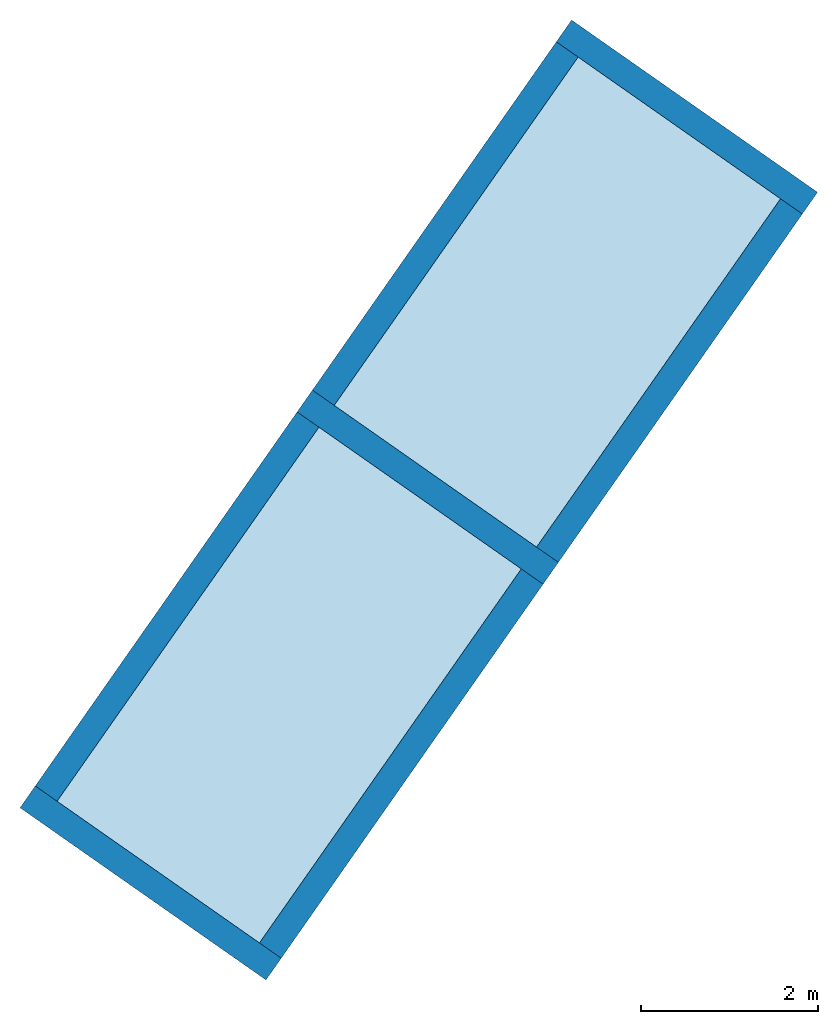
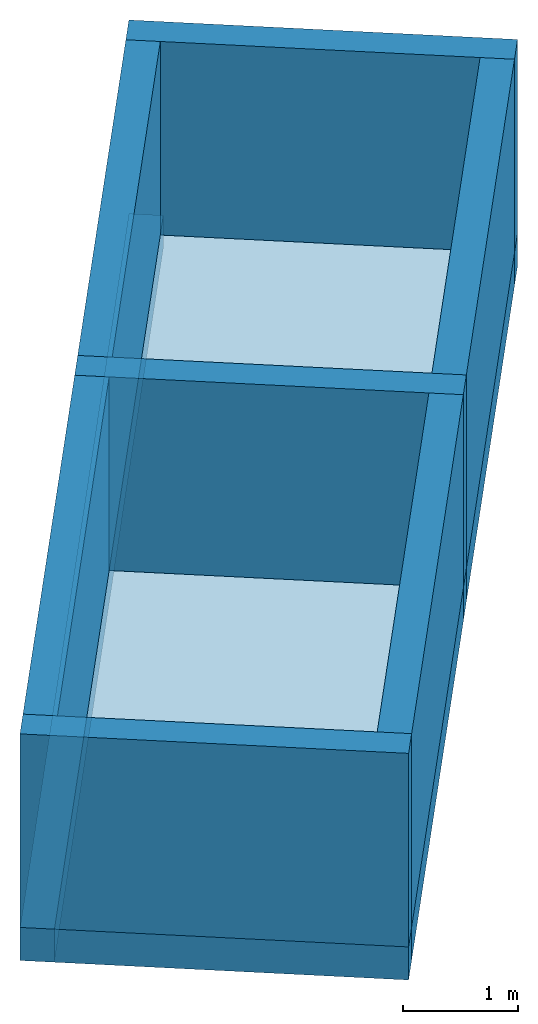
# One storey: 5 beams, 5 walls, 2 slabs.
"""IFC2X3 building model written with IfcOpenShell, lengths in metres."""

from ifc_helpers import new_model, entity, si_unit, converted_unit, derived_unit, direction, frame, frame_2d, origin, origin_2d_with_axis, place, context, subcontext, project, spatial, rectangle, extrude, material, type_object, element, save


model = new_model("IFC2X3")

# Units and contexts
model_context = context("Model", 3, precision=1e-05, world=origin(), true_north=direction((6.123031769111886e-17, 1.0)))
body_context = subcontext(model_context, "Body", "Model", "MODEL_VIEW")
ifc_project = project(units=[si_unit("LENGTHUNIT", "METRE"), si_unit("AREAUNIT", "SQUARE_METRE"), si_unit("VOLUMEUNIT", "CUBIC_METRE"), converted_unit("PLANEANGLEUNIT", "DEGREE", entity("IfcPlaneAngleMeasure", 0.017453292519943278), si_unit("PLANEANGLEUNIT", "RADIAN"), dimensions=[0, 0, 0, 0, 0, 0, 0]), si_unit("MASSUNIT", "GRAM", prefix="KILO"), derived_unit("MASSDENSITYUNIT", [(si_unit("MASSUNIT", "GRAM", prefix="KILO"), 1), (si_unit("LENGTHUNIT", "METRE"), -3)]), derived_unit("IONCONCENTRATIONUNIT", [(si_unit("MASSUNIT", "GRAM", prefix="KILO"), 1), (si_unit("LENGTHUNIT", "METRE"), -3)]), derived_unit("MOMENTOFINERTIAUNIT", [(si_unit("LENGTHUNIT", "METRE"), 4)]), si_unit("TIMEUNIT", "SECOND"), si_unit("FREQUENCYUNIT", "HERTZ"), si_unit("THERMODYNAMICTEMPERATUREUNIT", "DEGREE_CELSIUS"), derived_unit("THERMALTRANSMITTANCEUNIT", [(si_unit("MASSUNIT", "GRAM", prefix="KILO"), 1), (si_unit("THERMODYNAMICTEMPERATUREUNIT", "KELVIN"), -1), (si_unit("TIMEUNIT", "SECOND"), -3)]), derived_unit("THERMALCONDUCTANCEUNIT", [(si_unit("MASSUNIT", "GRAM", prefix="KILO"), 1), (si_unit("THERMODYNAMICTEMPERATUREUNIT", "KELVIN"), -1), (si_unit("TIMEUNIT", "SECOND"), -3), (si_unit("LENGTHUNIT", "METRE"), 1)]), derived_unit("VOLUMETRICFLOWRATEUNIT", [(si_unit("LENGTHUNIT", "METRE", prefix="DECI"), 3), (si_unit("TIMEUNIT", "SECOND"), -1)]), derived_unit("MASSFLOWRATEUNIT", [(si_unit("MASSUNIT", "GRAM", prefix="KILO"), 1), (si_unit("TIMEUNIT", "SECOND"), -1)]), derived_unit("ROTATIONALFREQUENCYUNIT", [(si_unit("TIMEUNIT", "SECOND"), -1)]), si_unit("ELECTRICCURRENTUNIT", "AMPERE"), si_unit("ELECTRICVOLTAGEUNIT", "VOLT"), si_unit("POWERUNIT", "WATT"), si_unit("FORCEUNIT", "NEWTON", prefix="KILO"), si_unit("ILLUMINANCEUNIT", "LUX"), si_unit("LUMINOUSFLUXUNIT", "LUMEN"), si_unit("LUMINOUSINTENSITYUNIT", "CANDELA"), si_unit("ENERGYUNIT", "JOULE"), derived_unit("USERDEFINED", [(si_unit("MASSUNIT", "GRAM", prefix="KILO"), -1), (si_unit("LENGTHUNIT", "METRE"), -2), (si_unit("TIMEUNIT", "SECOND"), 3), (si_unit("LUMINOUSFLUXUNIT", "LUMEN"), 1)]), derived_unit("USERDEFINED", [(si_unit("MASSUNIT", "GRAM", prefix="KILO"), 1), (si_unit("TIMEUNIT", "SECOND"), -3), (si_unit("LENGTHUNIT", "METRE"), 3), (si_unit("ELECTRICCURRENTUNIT", "AMPERE"), -2)]), derived_unit("SOUNDPOWERUNIT", [(si_unit("MASSUNIT", "GRAM", prefix="KILO"), 1), (si_unit("TIMEUNIT", "SECOND"), -3), (si_unit("LENGTHUNIT", "METRE"), 2)]), derived_unit("SOUNDPRESSUREUNIT", [(si_unit("MASSUNIT", "GRAM", prefix="KILO"), 1), (si_unit("LENGTHUNIT", "METRE"), -1), (si_unit("TIMEUNIT", "SECOND"), -2)]), derived_unit("LINEARVELOCITYUNIT", [(si_unit("LENGTHUNIT", "METRE"), 1), (si_unit("TIMEUNIT", "SECOND"), -1)]), si_unit("PRESSUREUNIT", "PASCAL"), derived_unit("USERDEFINED", [(si_unit("MASSUNIT", "GRAM", prefix="KILO"), 1), (si_unit("LENGTHUNIT", "METRE"), -2), (si_unit("TIMEUNIT", "SECOND"), -2)]), derived_unit("LINEARFORCEUNIT", [(si_unit("MASSUNIT", "GRAM", prefix="KILO"), 1), (si_unit("TIMEUNIT", "SECOND"), -2)]), derived_unit("PLANARFORCEUNIT", [(si_unit("MASSUNIT", "GRAM", prefix="KILO"), 1), (si_unit("LENGTHUNIT", "METRE"), -1), (si_unit("TIMEUNIT", "SECOND"), -2)]), derived_unit("SPECIFICHEATCAPACITYUNIT", [(si_unit("THERMODYNAMICTEMPERATUREUNIT", "KELVIN"), -1), (si_unit("LENGTHUNIT", "METRE"), 2), (si_unit("TIMEUNIT", "SECOND"), -2)]), derived_unit("HEATFLUXDENSITYUNIT", [(si_unit("MASSUNIT", "GRAM", prefix="KILO"), 1), (si_unit("TIMEUNIT", "SECOND"), -3)]), derived_unit("HEATINGVALUEUNIT", [(si_unit("LENGTHUNIT", "METRE"), 2), (si_unit("TIMEUNIT", "SECOND"), -2)]), derived_unit("VAPORPERMEABILITYUNIT", [(si_unit("LENGTHUNIT", "METRE"), -1), (si_unit("TIMEUNIT", "SECOND"), 1)]), derived_unit("DYNAMICVISCOSITYUNIT", [(si_unit("MASSUNIT", "GRAM", prefix="KILO"), 1), (si_unit("TIMEUNIT", "SECOND"), -1), (si_unit("LENGTHUNIT", "METRE"), -1)]), derived_unit("THERMALEXPANSIONCOEFFICIENTUNIT", [(si_unit("THERMODYNAMICTEMPERATUREUNIT", "KELVIN"), -1)]), derived_unit("MODULUSOFELASTICITYUNIT", [(si_unit("MASSUNIT", "GRAM", prefix="KILO"), 1), (si_unit("LENGTHUNIT", "METRE"), -1), (si_unit("TIMEUNIT", "SECOND"), -2)]), derived_unit("ISOTHERMALMOISTURECAPACITYUNIT", [(si_unit("MASSUNIT", "GRAM", prefix="KILO"), -1), (si_unit("LENGTHUNIT", "METRE"), 3)]), derived_unit("MOISTUREDIFFUSIVITYUNIT", [(si_unit("TIMEUNIT", "SECOND"), -1), (si_unit("LENGTHUNIT", "METRE"), 2)]), derived_unit("MASSPERLENGTHUNIT", [(si_unit("MASSUNIT", "GRAM", prefix="KILO"), 1), (si_unit("LENGTHUNIT", "METRE"), -1)]), derived_unit("THERMALRESISTANCEUNIT", [(si_unit("MASSUNIT", "GRAM", prefix="KILO"), -1), (si_unit("TIMEUNIT", "SECOND"), 3), (si_unit("THERMODYNAMICTEMPERATUREUNIT", "KELVIN"), 1)]), derived_unit("ACCELERATIONUNIT", [(si_unit("LENGTHUNIT", "METRE"), 1), (si_unit("TIMEUNIT", "SECOND"), -2)]), derived_unit("ANGULARVELOCITYUNIT", [(si_unit("TIMEUNIT", "SECOND"), -1), (si_unit("PLANEANGLEUNIT", "RADIAN"), 1)]), derived_unit("LINEARSTIFFNESSUNIT", [(si_unit("MASSUNIT", "GRAM", prefix="KILO"), 1), (si_unit("TIMEUNIT", "SECOND"), -2)]), derived_unit("WARPINGCONSTANTUNIT", [(si_unit("LENGTHUNIT", "METRE"), 6)]), derived_unit("LINEARMOMENTUNIT", [(si_unit("MASSUNIT", "GRAM", prefix="KILO"), 1), (si_unit("LENGTHUNIT", "METRE"), 1), (si_unit("TIMEUNIT", "SECOND"), -2)]), derived_unit("TORQUEUNIT", [(si_unit("MASSUNIT", "GRAM", prefix="KILO"), 1), (si_unit("LENGTHUNIT", "METRE"), 2), (si_unit("TIMEUNIT", "SECOND"), -2)])], contexts=[model_context])

# Site, building, storey
site_placement = place(None, origin())
site = spatial("IfcSite", under=ifc_project, at=site_placement, Name="Default", CompositionType="ELEMENT")
building_placement = place(site_placement, origin())
building = spatial("IfcBuilding", under=site, at=building_placement, CompositionType="ELEMENT")
storey_placement = place(building_placement, frame((0.0, 0.0, 93.64)))
storey = spatial("IfcBuildingStorey", under=building, at=storey_placement, Name="Depósito", CompositionType="ELEMENT", Elevation=93.64)

# Beams
ifc_material_1 = material(Name="Hormigón armado")
beam_1_placement = place(storey_placement, origin())
element("IfcBeam", 1, at=beam_1_placement, inside=storey, material=ifc_material_1, Name="Viga 1 (30x35)", ObjectType="FOOTING_BEAM", context=body_context, shape_type="SweptSolid", body=[
    extrude(rectangle(XDim=0.34999999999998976, YDim=0.3000000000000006, at=frame_2d((0.0, 1.3461454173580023e-15), x_axis=(1.0, 0.0))), frame((4.350410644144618, 11.05287951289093, -0.17499999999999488), z_axis=(0.819152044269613, -0.573576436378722, 0.0), x_axis=(0.0, 0.0, 1.0)), (0.0, 0.0, 1.0), 3.3844485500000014),
])
beam_2_placement = place(storey_placement, origin())
element("IfcBeam", 2, at=beam_2_placement, inside=storey, material=ifc_material_1, Name="Viga 2 (30x35)", ObjectType="FOOTING_BEAM", context=body_context, shape_type="SweptSolid", body=[
    extrude(rectangle(XDim=0.34999999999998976, YDim=0.30000000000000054, at=origin_2d_with_axis()), frame((-1.6577922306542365, 2.21075953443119, -0.17499999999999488), z_axis=(0.573576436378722, 0.819152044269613, 0.0), x_axis=(0.0, 0.0, 1.0)), (0.0, 0.0, 1.0), 10.83920425),
])
beam_3_placement = place(storey_placement, origin())
element("IfcBeam", 3, at=beam_3_placement, inside=storey, material=ifc_material_1, Name="Viga 3 (30x35)", ObjectType="FOOTING_BEAM", context=body_context, shape_type="SweptSolid", body=[
    extrude(rectangle(XDim=0.34999999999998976, YDim=0.2999999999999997, at=frame_2d((0.0, 1.942890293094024e-16), x_axis=(1.0, 0.0))), frame((-1.6946285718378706, 2.4196688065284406, -0.17499999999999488), z_axis=(0.8191520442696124, -0.5735764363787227, 0.0), x_axis=(0.0, 0.0, 1.0)), (0.0, 0.0, 1.0), 3.384448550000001),
])
beam_4_placement = place(storey_placement, origin())
element("IfcBeam", 4, at=beam_4_placement, inside=storey, material=ifc_material_1, Name="Viga 4 (30x35)", ObjectType="FOOTING_BEAM", context=body_context, shape_type="SweptSolid", body=[
    extrude(rectangle(XDim=0.34999999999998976, YDim=0.30000000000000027, at=frame_2d((0.0, -9.71445146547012e-17), x_axis=(1.0, 0.0))), frame((0.8688401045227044, 0.44159252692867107, -0.17499999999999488), z_axis=(0.5735764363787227, 0.8191520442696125, 0.0), x_axis=(0.0, 0.0, 1.0)), (0.0, 0.0, 1.0), 10.839204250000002),
])
beam_5_placement = place(storey_placement, origin())
element("IfcBeam", 5, at=beam_5_placement, inside=storey, material=ifc_material_1, Name="Viga 5 (30x35)", ObjectType="FOOTING_BEAM", context=body_context, shape_type="SweptSolid", body=[
    extrude(rectangle(XDim=0.34999999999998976, YDim=0.2999999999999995, at=frame_2d((0.0, 5.134781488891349e-16), x_axis=(1.0, 0.0))), frame((1.4291860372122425, 6.880938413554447, -0.17499999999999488), z_axis=(0.8191520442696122, -0.5735764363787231, 0.0), x_axis=(0.0, 0.0, 1.0)), (0.0, 0.0, 1.0), 3.3844485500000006),
])

# Slabs
slab_type = type_object("IfcSlabType", Name="Forma directa:DirectShapeType 359", PredefinedType="BASESLAB")
slab_1_placement = place(storey_placement, origin())
element("IfcSlab", 6, at=slab_1_placement, inside=storey, type_object=slab_type, Name="Paño 1 (35 cm)", ObjectType="Losas apoyadas en el terreno: 35", PredefinedType="BASESLAB", context=body_context, shape_type="SweptSolid", body=[
    extrude(rectangle(XDim=2.784448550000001, YDim=5.146204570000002, at=origin_2d_with_axis()), frame((1.2534677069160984, 3.6796836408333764, -0.3500000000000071), z_axis=(0.0, 0.0, 1.0), x_axis=(0.8191520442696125, -0.5735764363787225, 0.0)), (0.0, 0.0, 1.0), 0.3500000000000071),
])
slab_2_placement = place(storey_placement, origin())
element("IfcSlab", 7, at=slab_2_placement, inside=storey, type_object=slab_type, Name="Paño 2 (35 cm)", ObjectType="Losas apoyadas en el terreno: 35", PredefinedType="BASESLAB", context=body_context, shape_type="SweptSolid", body=[
    extrude(rectangle(XDim=4.792999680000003, YDim=2.784448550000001, at=frame_2d((-2.220446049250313e-16, -5.551115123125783e-16), x_axis=(1.0, 0.0))), frame((4.275987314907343, 7.996288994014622, -0.3500000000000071), z_axis=(0.0, 0.0, 1.0), x_axis=(0.5735764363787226, 0.8191520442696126, 0.0)), (0.0, 0.0, 1.0), 0.3500000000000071),
])

# Walls
ifc_material_2 = material(Name="HA-25, Yc=1.5")
wall_type = type_object("IfcWallType", Name="Forma directa:DirectShapeType 620", PredefinedType="STANDARD", material=ifc_material_2)
wall_1_placement = place(storey_placement, frame((4.264374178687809, 8.988766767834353, 0.0)))
element("IfcWall", 8, at=wall_1_placement, inside=storey, type_object=wall_type, material=ifc_material_2, Name="M1 (30)", ObjectType="30", context=body_context, shape_type="SweptSolid", body=[
    extrude(rectangle(XDim=0.2999999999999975, YDim=3.3844485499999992, at=frame_2d((-1.0269562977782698e-15, -4.440892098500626e-16), x_axis=(1.0, 0.0))), frame((1.4722254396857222, 1.0934927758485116, 0.0), z_axis=(0.0, 0.0, 1.0), x_axis=(0.5735764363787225, 0.8191520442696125, 0.0)), (0.0, 0.0, 1.0), 2.0500000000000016),
])
wall_2_placement = place(storey_placement, frame((-1.7806650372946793, 2.1247230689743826, 0.0), z_axis=(0.0, 0.0, 1.0), x_axis=(0.0, 1.0, 0.0)))
element("IfcWall", 9, at=wall_2_placement, inside=storey, type_object=wall_type, material=ifc_material_2, Name="M2 (30)", ObjectType="30", context=body_context, shape_type="SweptSolid", body=[
    extrude(rectangle(XDim=0.3000000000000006, YDim=10.839204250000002, at=frame_2d((0.0, -4.440892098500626e-16), x_axis=(1.0, 0.0))), frame((4.525514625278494, -3.2314288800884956, 0.0), z_axis=(0.0, 0.0, 1.0), x_axis=(0.5735764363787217, 0.8191520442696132, 0.0)), (0.0, 0.0, 1.0), 2.0500000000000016),
])
wall_3_placement = place(storey_placement, frame((-1.7806650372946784, 0.35555606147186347, 0.0)))
element("IfcWall", 10, at=wall_3_placement, inside=storey, type_object=wall_type, material=ifc_material_2, Name="M3 (30)", ObjectType="30", context=body_context, shape_type="SweptSolid", body=[
    extrude(rectangle(XDim=0.30000000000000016, YDim=3.38444855, at=frame_2d((6.938893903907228e-17, 0.0), x_axis=(1.0, 0.0))), frame((1.4722254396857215, 1.0934927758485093, 0.0), z_axis=(0.0, 0.0, 1.0), x_axis=(0.5735764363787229, 0.8191520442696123, 0.0)), (0.0, 0.0, 1.0), 2.0500000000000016),
])
wall_4_placement = place(storey_placement, frame((0.7459672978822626, 0.3555560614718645, 0.0), z_axis=(0.0, 0.0, 1.0), x_axis=(0.0, 1.0, 0.0)))
element("IfcWall", 11, at=wall_4_placement, inside=storey, type_object=wall_type, material=ifc_material_2, Name="M4 (30)", ObjectType="30", context=body_context, shape_type="SweptSolid", body=[
    extrude(rectangle(XDim=0.29999999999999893, YDim=10.839204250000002, at=frame_2d((-2.7755575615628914e-16, 0.0), x_axis=(1.0, 0.0))), frame((4.525514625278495, -3.231428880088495, 0.0), z_axis=(0.0, 0.0, 1.0), x_axis=(0.5735764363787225, 0.8191520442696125, 0.0)), (0.0, 0.0, 1.0), 2.0500000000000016),
])
wall_5_placement = place(storey_placement, frame((1.343149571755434, 4.816825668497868, 0.0)))
element("IfcWall", 12, at=wall_5_placement, inside=storey, type_object=wall_type, material=ifc_material_2, Name="M5 (30)", ObjectType="30", context=body_context, shape_type="SweptSolid", body=[
    extrude(rectangle(XDim=0.3000000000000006, YDim=3.384448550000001, at=frame_2d((-2.0816681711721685e-16, 2.220446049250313e-16), x_axis=(1.0, 0.0))), frame((1.4722254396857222, 1.09349277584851, 0.0), z_axis=(0.0, 0.0, 1.0), x_axis=(0.5735764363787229, 0.8191520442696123, 0.0)), (0.0, 0.0, 1.0), 2.0500000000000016),
])

save(model, "model.ifc")
